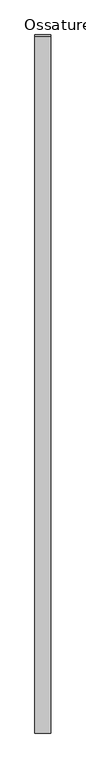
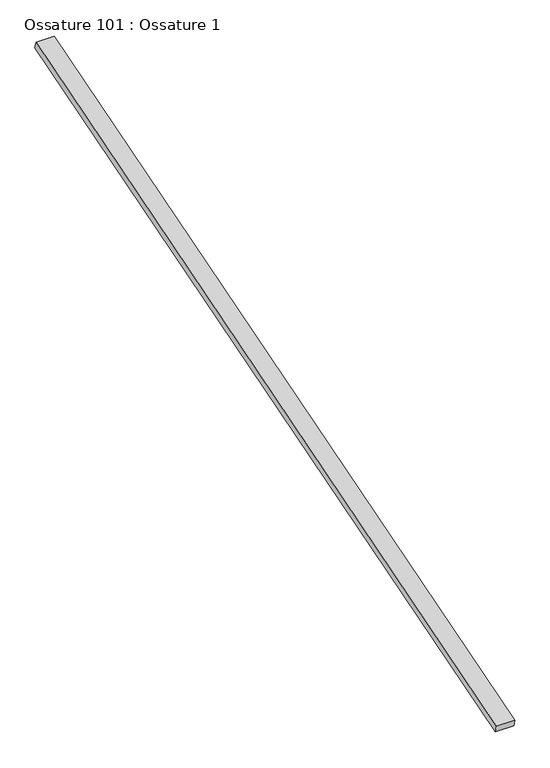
"""IFC4 building model written with IfcOpenShell, lengths in millimetres: beam geometry, Ossature 101 : Ossature 1."""

from ifc_helpers import new_model, si_unit, frame, origin, place, context, project, spatial, polyline, outline, extrude, source, transform, mapped, element, save


def ossature_101_ossature_1_00bcfb5e(model_context):
    return source(origin(), model_context, "Body", "SweptSolid", [
        extrude(outline(polyline([(0.0, 0.0), (0.0, -4543.0299679), (-100.0, -4543.0299679), (-100.0, 0.0), (0.0, 0.0)])), frame((24333.4466393, -833.3913565, 8153.6336115), z_axis=(0.0, -0.28734788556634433, 0.9578262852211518), x_axis=(-1.0, 0.0, 0.0)), (0.0, 0.0, 1.0), 40.0),
    ])


if __name__ == "__main__":
    model = new_model("IFC4")
    model_context = context("Model", 3, world=origin())
    ifc_project = project(units=[si_unit("LENGTHUNIT", "METRE", prefix="MILLI")], contexts=[model_context])
    site = spatial("IfcSite", under=ifc_project)
    building = spatial("IfcBuilding", under=site)
    placement = place(None, origin())
    ossature_101_ossature_1_shape = ossature_101_ossature_1_00bcfb5e(model_context)
    element("IfcBeam", 1, ObjectType="Ossature 101 : Ossature 1", at=placement, inside=building, context=model_context, shape_type="MappedRepresentation", body=[
        mapped(ossature_101_ossature_1_shape, transform((0.0, 0.0, 0.0), x_axis=(1.0, 0.0, 0.0), y_axis=(0.0, 1.0, 0.0), z_axis=(0.0, 0.0, 1.0))),
    ])
    save(model, "model.ifc")
